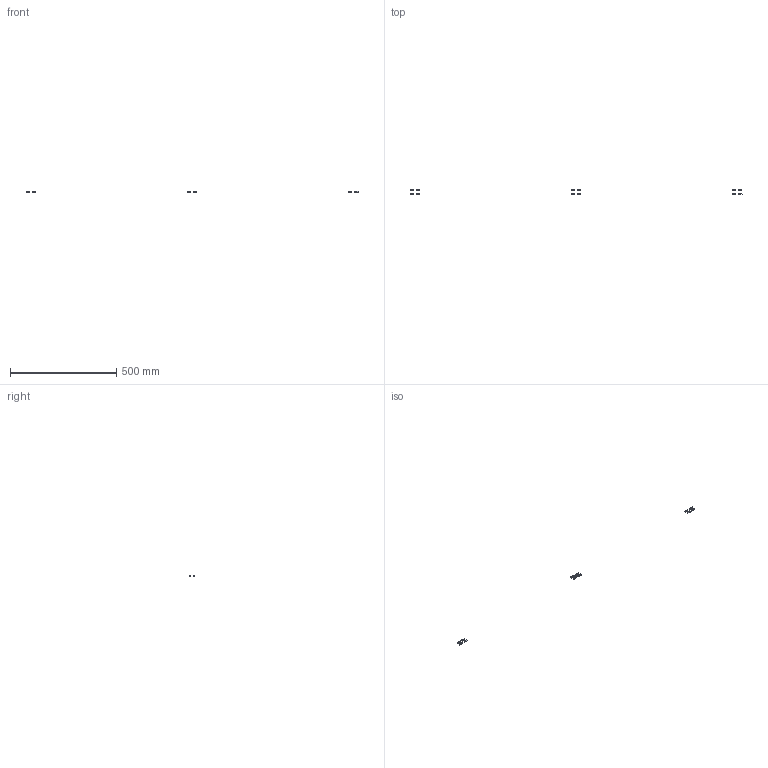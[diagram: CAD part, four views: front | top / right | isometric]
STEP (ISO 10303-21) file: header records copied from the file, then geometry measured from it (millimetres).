
FILE_DESCRIPTION(/* description */ (''),/* implementation_level */ '2;1');
FILE_NAME(/* name */ '4.frame-door#4.4#HNTPZ5-5',/* time_stamp */ '2014-12-01T20:12:44+01:00',/* author */ (''),/* organization */ (''),/* preprocessor_version */ 'ST-DEVELOPER v14',/* originating_system */ '',/* authorisation */ '');
FILE_SCHEMA (('AUTOMOTIVE_DESIGN'));
Length unit declared in the file: millimetre
Products named in the file (2): Document; nut tslot, post, M5
Assembly tree (6 placements, depth 2):
  Document
    nut tslot, post, M5  x6
Bounding box: 1563.92 x 20.32 x 8.3 mm (x, y, z)
Volume: 3780.1 mm3; surface area: 5034.1 mm2
Topology: 12 solids, 12 shells, 156 faces, 432 edges, 288 vertices
Faces by surface type: plane 132, bspline 24
Entity records: 6753 total; most frequent: CARTESIAN_POINT 3201, B_SPLINE_CURVE_WITH_KNOTS 700, ORIENTED_EDGE 504, PCURVE 504, DEFINITIONAL_REPRESENTATION 504, SURFACE_CURVE 252, EDGE_CURVE 252, VERTEX_POINT 168
